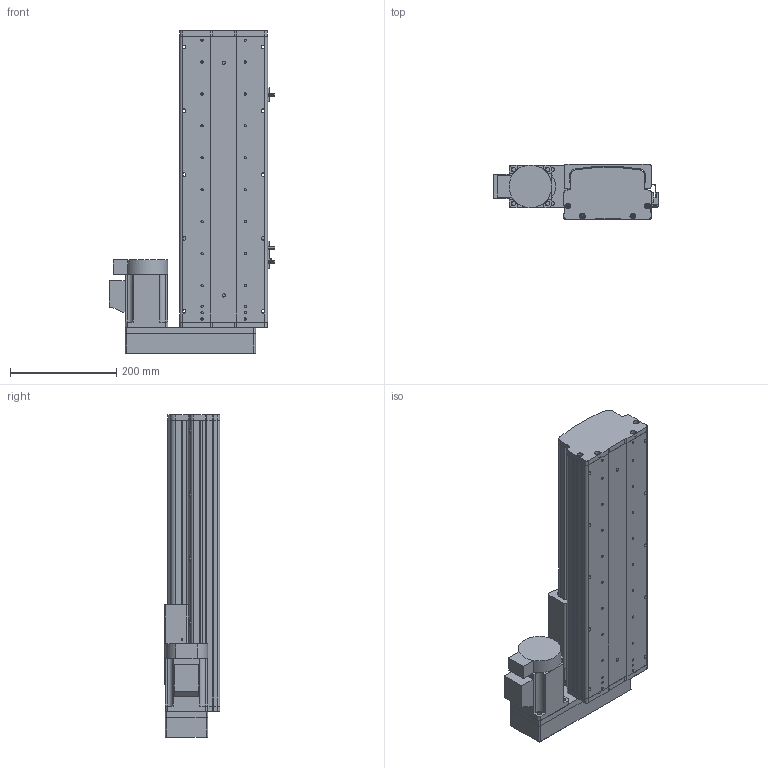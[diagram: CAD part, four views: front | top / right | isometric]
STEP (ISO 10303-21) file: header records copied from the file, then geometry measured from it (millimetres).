
FILE_DESCRIPTION (( 'STEP AP214' ), '1' );
FILE_NAME ('KSD165S-S300-MR-CM.STEP', '2017-10-17T09:19:44', ( '微软用户' ), ( '微软中国' ), 'SwSTEP 2.0', 'SolidWorks 2014', '' );
FILE_SCHEMA (( 'AUTOMOTIVE_DESIGN' ));
Length unit declared in the file: millimetre
Products named in the file (17): HTPA26S5M250-A-H8 750W萇儂蚚; 肣翐M4X35樓6; 165宽模组保护罩左右折; 165宽模组马达安装板连板左右折丝杆; KSD165模组-丝杆上下左右折前端板; KSD165耀郪-佪裝-滅袉菜-3 -; KSD165耀郪-佪裝-滅袉菜-1; 覜茼え68遵圉猾敕; U倰嫖萇假蚾璃; U倰嫖萇EEㄜSX672; KSD165耀郪-綴傷啣1; KSD165模组-丝杆滑动座-最新版; KSD165S-S300-MR-CM; 拸秶雄ん750W侜督萇儂; KSD165模组底板-300行程-最新; KSD165模组-防尘盖1-300行程-最新版; HTPA26S5M250-A-H8丝杆用(内径14）
Assembly tree (23 placements, depth 2):
  KSD165S-S300-MR-CM
    KSD165模组-丝杆滑动座-最新版
    KSD165耀郪-綴傷啣1
    U倰嫖萇EEㄜSX672  x3
    U倰嫖萇假蚾璃  x3
    覜茼え68遵圉猾敕
    KSD165耀郪-佪裝-滅袉菜-1
    KSD165耀郪-佪裝-滅袉菜-3 -
    KSD165模组-丝杆上下左右折前端板
    165宽模组马达安装板连板左右折丝杆
    165宽模组保护罩左右折
    肣翐M4X35樓6  x4
    HTPA26S5M250-A-H8 750W萇儂蚚
    HTPA26S5M250-A-H8丝杆用(内径14）
    KSD165模组-防尘盖1-300行程-最新版
    KSD165模组底板-300行程-最新
    拸秶雄ん750W侜督萇儂
Bounding box: 311.2 x 104 x 605.5 mm (x, y, z)
Volume: 4717225.3 mm3; surface area: 1088894.4 mm2
Topology: 24 solids, 24 shells, 1815 faces, 5106 edges, 3331 vertices
Faces by surface type: cylinder 1135, plane 571, cone 109
Entity records: 57517 total; most frequent: CARTESIAN_POINT 11983, DIRECTION 9323, ORIENTED_EDGE 8692, EDGE_CURVE 4346, AXIS2_PLACEMENT_3D 3640, VERTEX_POINT 2860, CIRCLE 2064, LINE 2043
